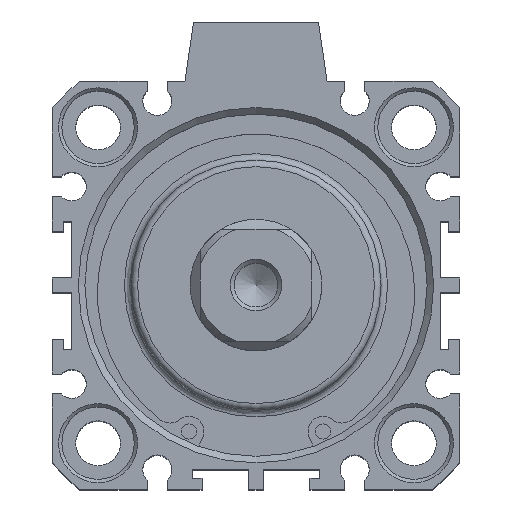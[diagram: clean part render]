
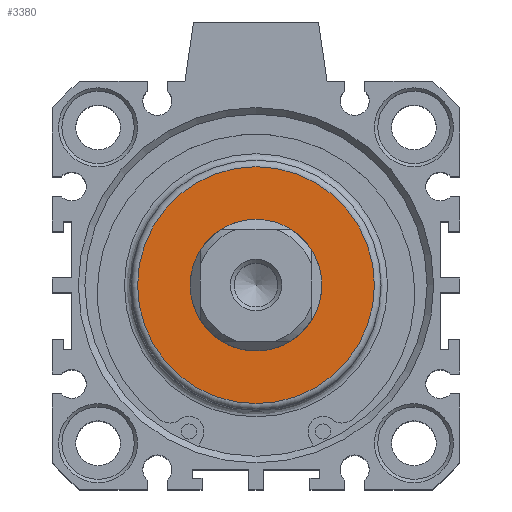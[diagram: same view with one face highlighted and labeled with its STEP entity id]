
A CAD part, top view. The second image highlights one B-rep face of the part: STEP entity #3380.
In plain terms, the highlighted planar face has unit normal (0, 0, 1).
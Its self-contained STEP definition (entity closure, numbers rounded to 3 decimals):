
#2900=CARTESIAN_POINT('',(-7.057,11.794,72.5));
#2901=VERTEX_POINT('',#2900);
#2902=CARTESIAN_POINT('',(-7.057,1.794,72.5));
#2903=DIRECTION('',(0.0,0.0,-1.0));
#2904=DIRECTION('',(0.0,1.0,0.0));
#2905=AXIS2_PLACEMENT_3D('',#2902,#2903,#2904);
#2906=CIRCLE('',#2905,10.);
#2907=EDGE_CURVE('',#2901,#2901,#2906,.T.);
#3354=CARTESIAN_POINT('',(-7.057,19.794,72.5));
#3355=VERTEX_POINT('',#3354);
#3356=CARTESIAN_POINT('',(-7.057,1.794,72.5));
#3357=DIRECTION('',(0.0,0.0,-1.0));
#3358=DIRECTION('',(0.0,-1.0,0.0));
#3359=AXIS2_PLACEMENT_3D('',#3356,#3357,#3358);
#3360=CIRCLE('',#3359,18.0);
#3361=EDGE_CURVE('',#3355,#3355,#3360,.T.);
#3369=CARTESIAN_POINT('',(-7.057,11.294,72.5));
#3370=DIRECTION('',(0.0,0.0,1.0));
#3371=DIRECTION('',(1.0,0.0,0.0));
#3372=AXIS2_PLACEMENT_3D('',#3369,#3370,#3371);
#3373=PLANE('',#3372);
#3374=ORIENTED_EDGE('',*,*,#3361,.F.);
#3375=EDGE_LOOP('',(#3374));
#3376=FACE_OUTER_BOUND('',#3375,.T.);
#3377=ORIENTED_EDGE('',*,*,#2907,.T.);
#3378=EDGE_LOOP('',(#3377));
#3379=FACE_BOUND('',#3378,.T.);
#3380=ADVANCED_FACE('',(#3376,#3379),#3373,.T.);
